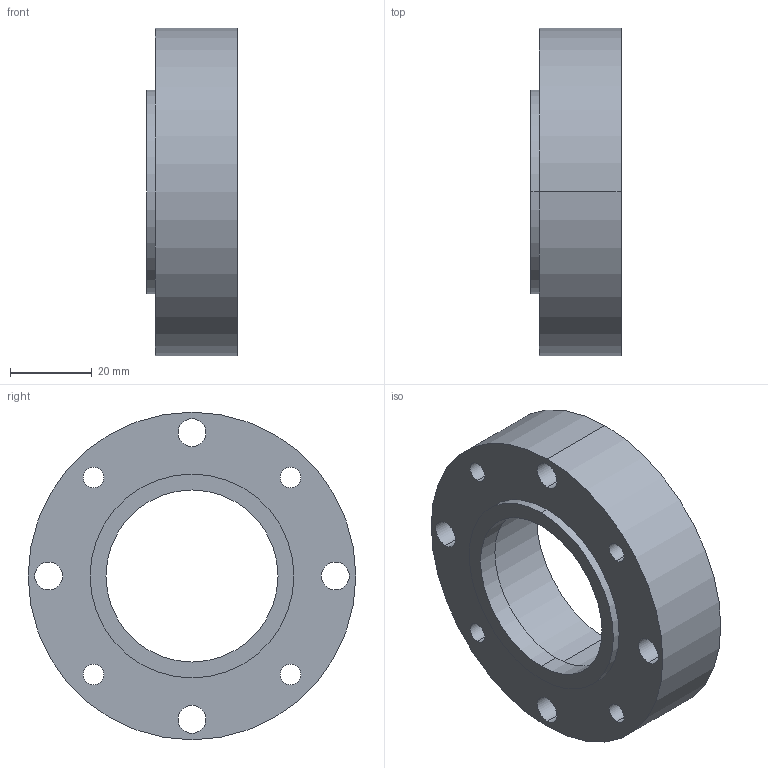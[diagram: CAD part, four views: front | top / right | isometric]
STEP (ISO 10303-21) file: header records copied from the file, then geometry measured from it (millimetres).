
FILE_DESCRIPTION (( 'STEP AP203' ), '1' );
FILE_NAME ('084.802.009.STEP', '2013-01-29T13:29:04', ( 'Alusic' ), ( 'Alusic' ), 'SwSTEP 2.0', 'SolidWorks 2011', '' );
FILE_SCHEMA (( 'CONFIG_CONTROL_DESIGN' ));
Length unit declared in the file: millimetre
Products named in the file (1): 084.802.009
Bounding box: 22 x 80 x 80 mm (x, y, z)
Volume: 63529.2 mm3; surface area: 18309.6 mm2
Topology: 1 solids, 1 shells, 28 faces, 72 edges, 48 vertices
Faces by surface type: cylinder 24, plane 4
Entity records: 997 total; most frequent: DIRECTION 178, CARTESIAN_POINT 149, ORIENTED_EDGE 144, AXIS2_PLACEMENT_3D 77, EDGE_CURVE 72, EDGE_LOOP 48, VERTEX_POINT 48, CIRCLE 48
